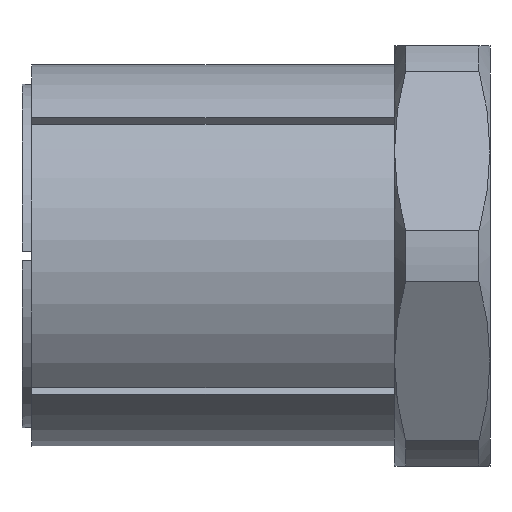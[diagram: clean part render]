
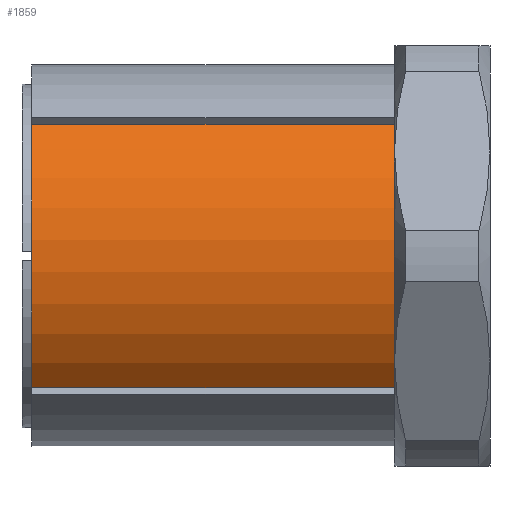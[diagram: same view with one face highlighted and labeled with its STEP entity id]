
A CAD part, front view. The second image highlights one B-rep face of the part: STEP entity #1859.
In plain terms, the highlighted cylindrical face has radius 10 mm (diameter 20 mm), a partial arc.
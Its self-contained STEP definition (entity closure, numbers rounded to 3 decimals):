
#55 = EDGE_CURVE ( 'NONE', #590, #588, #322, .T. ) ;
#56 = EDGE_CURVE ( 'NONE', #588, #595, #327, .T. ) ;
#57 = EDGE_CURVE ( 'NONE', #595, #597, #325, .T. ) ;
#66 = EDGE_CURVE ( 'NONE', #590, #597, #342, .T. ) ;
#206 = AXIS2_PLACEMENT_3D ( 'NONE', #878, #880, #881 ) ;
#209 = AXIS2_PLACEMENT_3D ( 'NONE', #897, #906, #907 ) ;
#266 = AXIS2_PLACEMENT_3D ( 'NONE', #1737, #1736, #1732 ) ;
#321 = VECTOR ( 'NONE', #883, 1000. ) ;
#322 = LINE ( 'NONE', #876, #323 ) ;
#323 = VECTOR ( 'NONE', #877, 1000. ) ;
#325 = LINE ( 'NONE', #882, #321 ) ;
#327 = CIRCLE ( 'NONE', #206, 10. ) ;
#342 = CIRCLE ( 'NONE', #209, 10. ) ;
#588 = VERTEX_POINT ( 'NONE', #1323 ) ;
#590 = VERTEX_POINT ( 'NONE', #1336 ) ;
#595 = VERTEX_POINT ( 'NONE', #1315 ) ;
#597 = VERTEX_POINT ( 'NONE', #1342 ) ;
#876 = CARTESIAN_POINT ( 'NONE',  ( 0., -7.246, -6.892 ) ) ;
#877 = DIRECTION ( 'NONE',  ( 1., 0., 0. ) ) ;
#878 = CARTESIAN_POINT ( 'NONE',  ( 19., 0., 0. ) ) ;
#880 = DIRECTION ( 'NONE',  ( -1., 0., 0. ) ) ;
#881 = DIRECTION ( 'NONE',  ( 0., 0., 1. ) ) ;
#882 = CARTESIAN_POINT ( 'NONE',  ( 0., -7.246, 6.892 ) ) ;
#883 = DIRECTION ( 'NONE',  ( -1., 0., 0. ) ) ;
#897 = CARTESIAN_POINT ( 'NONE',  ( 0., 0., 0. ) ) ;
#906 = DIRECTION ( 'NONE',  ( -1., 0., 0. ) ) ;
#907 = DIRECTION ( 'NONE',  ( 0., 0., 1. ) ) ;
#1315 = CARTESIAN_POINT ( 'NONE',  ( 19., -7.246, 6.892 ) ) ;
#1323 = CARTESIAN_POINT ( 'NONE',  ( 19., -7.246, -6.892 ) ) ;
#1336 = CARTESIAN_POINT ( 'NONE',  ( 0., -7.246, -6.892 ) ) ;
#1342 = CARTESIAN_POINT ( 'NONE',  ( 0., -7.246, 6.892 ) ) ;
#1732 = DIRECTION ( 'NONE',  ( 0., 0., 1. ) ) ;
#1736 = DIRECTION ( 'NONE',  ( -1., 0., 0. ) ) ;
#1737 = CARTESIAN_POINT ( 'NONE',  ( 0., 0., 0. ) ) ;
#1859 = ADVANCED_FACE ( 'NONE', ( #1988 ), #1997, .T. ) ;
#1988 = FACE_OUTER_BOUND ( 'NONE', #2267, .T. ) ;
#1997 = CYLINDRICAL_SURFACE ( 'NONE', #266, 10. ) ;
#2182 = ORIENTED_EDGE ( 'NONE', *, *, #57, .T. ) ;
#2184 = ORIENTED_EDGE ( 'NONE', *, *, #55, .T. ) ;
#2192 = ORIENTED_EDGE ( 'NONE', *, *, #56, .T. ) ;
#2194 = ORIENTED_EDGE ( 'NONE', *, *, #66, .F. ) ;
#2267 = EDGE_LOOP ( 'NONE', ( #2192, #2182, #2194, #2184 ) ) ;
